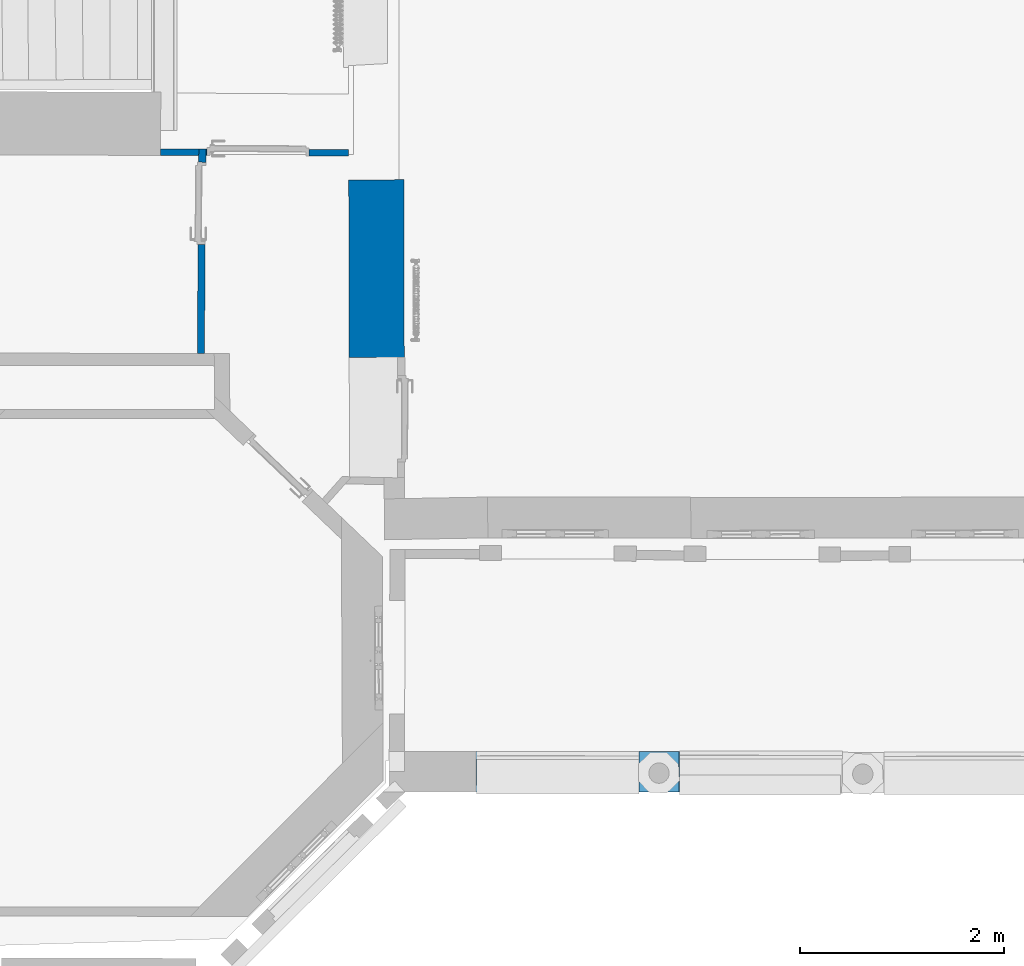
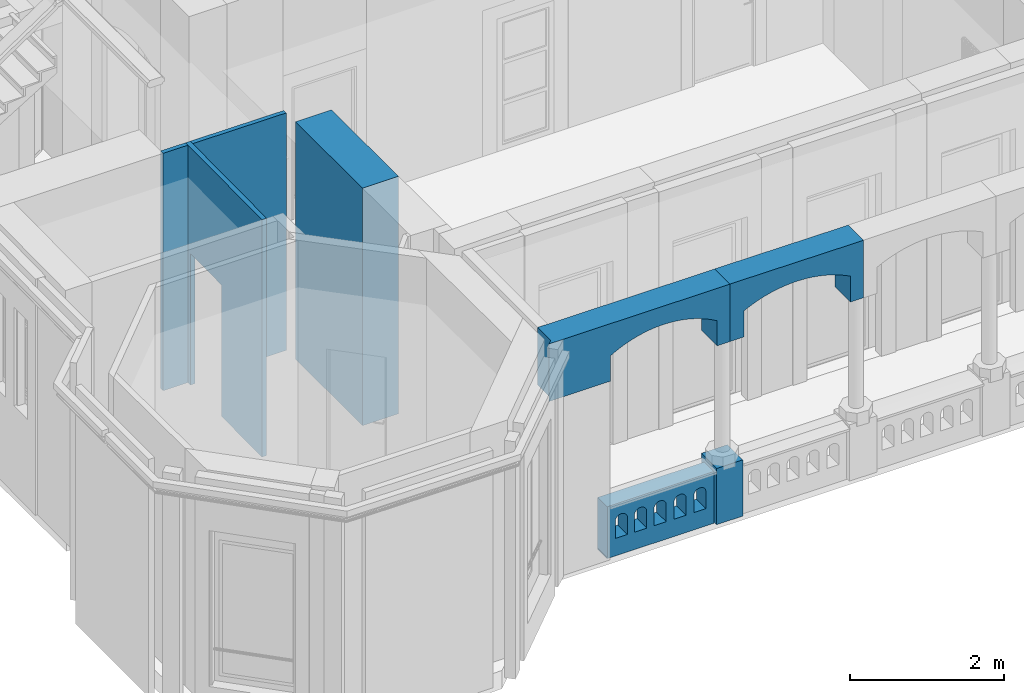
# One storey, part 4 of 66: 8 walls, 9 openings.
"""IFC2X3 building model written with IfcOpenShell, lengths in centimetres."""

from ifc_helpers import new_model, entity, si_unit, converted_unit, point, direction, frame, frame_2d, origin, origin_with_axes, origin_2d_with_axis, place, context, subcontext, project, spatial, polyline, circle_curve, trimmed, segment, composite_curve, rectangle, outline, extrude, clip, bounded_halfspace, shape, material, layer, layer_set, layer_usage, type_object, element, save


model = new_model("IFC2X3")

# Units and contexts
model_context = context("Model", 3, precision=0.0001, world=origin(), true_north=direction((0.225632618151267, 0.974212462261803, 0.0)))
body_context = subcontext(model_context, "Body", "Model", "MODEL_VIEW")
footprint_context = subcontext(model_context, "FootPrint", "Model", "MODEL_VIEW")
profile_context = subcontext(model_context, "Profile", "Model", "MODEL_VIEW")
ifc_project = project(units=[si_unit("LENGTHUNIT", "METRE", prefix="CENTI"), si_unit("AREAUNIT", "SQUARE_METRE", prefix="CENTI"), si_unit("VOLUMEUNIT", "CUBIC_METRE", prefix="CENTI"), converted_unit("PLANEANGLEUNIT", "DEGREE", entity("IfcRatioMeasure", 0.0174532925), si_unit("PLANEANGLEUNIT", "RADIAN"), dimensions=[0, 0, 0, 0, 0, 0, 0])], contexts=[model_context])

# Site, building, storey
site_placement = place(None, origin_with_axes())
site = spatial("IfcSite", under=ifc_project, at=site_placement, Name="Default Site", CompositionType="ELEMENT")
building_placement = place(site_placement, origin_with_axes())
building = spatial("IfcBuilding", under=site, at=building_placement, Name="Default Building", CompositionType="ELEMENT")
storey_placement = place(building_placement, frame((0.0, 0.0, 477.795358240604), z_axis=(0.0, 0.0, 1.0), x_axis=(1.0, 0.0, 0.0)))
storey = spatial("IfcBuildingStorey", under=building, at=storey_placement, Name="Niveau 1", CompositionType="ELEMENT", Elevation=477.795358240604)

# Wall
ifc_material = material(Name="<aucun>")
ifc_layer_1 = layer(ifc_material, 6.5)
ifc_layer_set_1 = layer_set([ifc_layer_1], Name="default")
ifc_layer_usage_1 = layer_usage(ifc_layer_set_1, "AXIS2", "POSITIVE", -3.25)
wall_type_1 = type_object("IfcWallType", Name="default 65", PredefinedType="NOTDEFINED", material=ifc_layer_set_1)
wall_1_placement = place(storey_placement, frame((-858.081555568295, -343.999470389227, 0.0128503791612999), z_axis=(0.0, 0.0, 1.0), x_axis=(-0.999992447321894, 0.00388655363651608, 0.0)))
element("IfcWallStandardCase", 1, at=wall_1_placement, inside=storey, type_object=wall_type_1, material=ifc_layer_usage_1, Name="Enveloppe 132255", context=body_context, shape_type="SweptSolid", body=[
    extrude(outline(polyline([(40.9161328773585, 3.24999999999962), (3.51114091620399, 3.24999999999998), (3.48890006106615, -3.25000000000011), (40.9161328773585, -3.25000000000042), (40.9161328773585, 3.24999999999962)])), frame((0.0, 0.0, -1.77635683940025e-13), z_axis=(0.0, 0.0, 1.0), x_axis=(1.0, 0.0, 0.0)), (0.0, 0.0, 1.0), 376.102165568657),
])

# Wall, opening
ifc_layer_usage_2 = layer_usage(ifc_layer_set_1, "AXIS2", "POSITIVE", -3.25)
wall_2_placement = place(storey_placement, frame((-714.725486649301, -344.556635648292, 0.0128503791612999), z_axis=(0.0, 0.0, 1.0), x_axis=(-0.999992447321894, 0.00388655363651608, 0.0)))
wall_2 = element("IfcWallStandardCase", 2, at=wall_2_placement, inside=storey, type_object=wall_type_1, material=ifc_layer_usage_2, Name="Enveloppe 132594", context=body_context, shape_type="SweptSolid", body=[
    extrude(outline(polyline([(139.868251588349, 3.24999999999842), (-0.0458888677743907, 3.25000000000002), (-0.0032777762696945, -3.24999999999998), (139.846010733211, -3.25000000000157), (139.868251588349, 3.24999999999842)])), origin_with_axes(), (0.0, 0.0, 1.0), 376.102165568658),
])
opening_1_placement = place(wall_2_placement, frame((38.9235844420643, -3.97903932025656e-13, -8.88178419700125e-16), z_axis=(0.0, 0.0, 1.0), x_axis=(-1.0, 1.16122389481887e-14, 0.0)))
cartesian_point_1 = entity("IfcCartesianPoint", [0.0, -4.44089209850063e-14, 208.5])
cartesian_point_2 = entity("IfcCartesianPoint", [-99.75981170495, -3.25000000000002])
element("IfcOpeningElement", 3, at=opening_1_placement, cuts=wall_2, Name="4294966411_11", ObjectType="Opening", shapes=[
    shape(body_context, "Body", "SweptSolid", [extrude(outline(polyline([(0.0, 208.5), (0.0, 0.0), (99.75981170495, 0.0), (99.75981170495, 208.5), (0.0, 208.5)])), frame((0.0, -13.25, 0.0), z_axis=(0.0, 1.0, 0.0), x_axis=(-1.0, 0.0, 0.0)), (0.0, 0.0, 1.0), 26.5)]),
    shape(profile_context, "Profile", "GeometricCurveSet", [entity("IfcGeometricCurveSet", [entity("IfcPolyline", [cartesian_point_1, entity("IfcCartesianPoint", [0.0, -4.44089209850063e-14, 0.0]), entity("IfcCartesianPoint", [-99.75981170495, -4.44089209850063e-14, 0.0]), entity("IfcCartesianPoint", [-99.75981170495, -4.44089209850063e-14, 208.5]), cartesian_point_1])])]),
    shape(footprint_context, "FootPrint", "GeometricCurveSet", [entity("IfcGeometricCurveSet", [entity("IfcPolyline", [cartesian_point_2, entity("IfcCartesianPoint", [0.0, -3.25000000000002]), entity("IfcCartesianPoint", [-8.88178419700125e-14, 3.24999999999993]), entity("IfcCartesianPoint", [-99.7598117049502, 3.25000000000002]), cartesian_point_2])])]),
])

ifc_layer_2 = layer(ifc_material, 7.0)
ifc_layer_set_2 = layer_set([ifc_layer_2], Name="default")
ifc_layer_usage_3 = layer_usage(ifc_layer_set_2, "AXIS2", "POSITIVE", -3.5)
wall_type_2 = type_object("IfcWallType", Name="default 70", PredefinedType="NOTDEFINED", material=ifc_layer_set_2)
wall_3_placement = place(storey_placement, frame((-859.522385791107, -541.147962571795, 0.0128503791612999), z_axis=(0.0, 0.0, 1.0), x_axis=(0.00730815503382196, 0.999973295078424, 0.0)))
wall_3 = element("IfcWallStandardCase", 4, at=wall_3_placement, inside=storey, type_object=wall_type_2, material=ifc_layer_usage_3, Name="Enveloppe 132385", context=body_context, shape_type="SweptSolid", body=[
    extrude(outline(polyline([(-0.0386540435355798, 3.50000000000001), (-8.88178419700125e-14, -3.50000000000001), (200.415752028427, -3.49999999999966), (200.391800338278, 3.50000000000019), (-0.0386540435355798, 3.50000000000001)])), frame((0.0, 0.0, -1.77635683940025e-13), z_axis=(0.0, 0.0, 1.0), x_axis=(1.0, 0.0, 0.0)), (0.0, 0.0, 1.0), 376.102165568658),
])
opening_2_placement = place(wall_3_placement, frame((106.66395324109, 2.27373675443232e-13, 8.88178419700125e-14), z_axis=(0.0, 0.0, 1.0), x_axis=(1.0, 6.59194920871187e-16, 0.0)))
cartesian_point_3 = entity("IfcCartesianPoint", [0.0, -1.77635683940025e-13, 208.0])
cartesian_point_4 = entity("IfcCartesianPoint", [80.735124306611, 3.49999999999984])
element("IfcOpeningElement", 5, at=opening_2_placement, cuts=wall_3, Name="4294966413_11", ObjectType="Opening", shapes=[
    shape(body_context, "Body", "SweptSolid", [extrude(outline(polyline([(0.0, 208.0), (0.0, -8.88178419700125e-14), (80.735124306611, -8.88178419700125e-14), (80.735124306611, 208.0), (0.0, 208.0)])), frame((0.0, 13.5, 0.0), z_axis=(0.0, -1.0, 0.0), x_axis=(1.0, 0.0, 0.0)), (0.0, 0.0, 1.0), 27.0)]),
    shape(profile_context, "Profile", "GeometricCurveSet", [entity("IfcGeometricCurveSet", [entity("IfcPolyline", [cartesian_point_3, entity("IfcCartesianPoint", [0.0, -1.77635683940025e-13, -8.88178419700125e-14]), entity("IfcCartesianPoint", [80.735124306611, -1.77635683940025e-13, -8.88178419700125e-14]), entity("IfcCartesianPoint", [80.735124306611, -1.77635683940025e-13, 208.0]), cartesian_point_3])])]),
    shape(footprint_context, "FootPrint", "GeometricCurveSet", [entity("IfcGeometricCurveSet", [entity("IfcPolyline", [cartesian_point_4, entity("IfcCartesianPoint", [0.0, 3.49999999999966]), entity("IfcCartesianPoint", [0.0, -3.50000000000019]), entity("IfcCartesianPoint", [80.735124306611, -3.50000000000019]), cartesian_point_4])])]),
])

ifc_layer_3 = layer(ifc_material, 39.8)
ifc_layer_set_3 = layer_set([ifc_layer_3], Name="default")
ifc_layer_usage_4 = layer_usage(ifc_layer_set_3, "AXIS2", "POSITIVE", -19.9)
wall_type_3 = type_object("IfcWallType", Name="default 398", PredefinedType="NOTDEFINED", material=ifc_layer_set_3)
wall_4_placement = place(storey_placement, frame((-210.135791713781, -951.945776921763, 285.0), z_axis=(0.0, 0.0, 1.0), x_axis=(-0.999988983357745, 0.00469394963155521, 0.0)))
wall_4 = element("IfcWallStandardCase", 6, at=wall_4_placement, inside=storey, type_object=wall_type_3, material=ifc_layer_usage_4, Name="Enveloppe 449531", context=body_context, shape_type="SweptSolid", body=[
    extrude(rectangle(XDim=39.7999999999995, YDim=199.548913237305, at=origin_2d_with_axis()), frame((99.9137392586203, 1.77635683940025e-13, 2.66453525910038e-13), z_axis=(0.0, 0.0, 1.0), x_axis=(-4.25007251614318e-17, -1.0, 0.0)), (0.0, 0.0, 1.0), 91.1150159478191),
])
opening_3_placement = place(wall_4_placement, frame((19.6409265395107, 1.13686837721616e-13, -5.6843418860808e-14), z_axis=(0.0, 0.0, 1.0), x_axis=(-1.0, 3.77302356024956e-16, 0.0)))
cartesian_point_5 = entity("IfcCartesianPoint", [0.0, 1.77635683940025e-13, 41.2107423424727])
cartesian_point_6 = entity("IfcCartesianPoint", [-159.18370357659, 1.77635683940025e-13, 41.2107423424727])
cartesian_point_7 = entity("IfcCartesianPoint", [-159.18370357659, -19.8999999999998])
element("IfcOpeningElement", 7, at=opening_3_placement, cuts=wall_4, Name="Baie 449532", ObjectType="Opening", shapes=[
    shape(body_context, "Body", "SweptSolid", [extrude(outline(composite_curve([segment(polyline([(-4.44089209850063e-14, 41.2107423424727), (-4.44089209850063e-14, -8.88178419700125e-14), (159.18370357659, -8.88178419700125e-14), (159.18370357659, 41.2107423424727)]), True, "CONTINUOUS"), segment(trimmed(circle_curve(frame_2d((79.5918517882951, -111.07221367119), x_axis=(1.0, 0.0)), 171.828290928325), [point((159.18370357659, 41.2107423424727))], [point((-4.44089209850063e-14, 41.2107423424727))], True, "CARTESIAN"), True, "CONTINUOUS")], self_intersect=False)), frame((0.0, -29.9, 0.0), z_axis=(0.0, 1.0, 0.0), x_axis=(-1.0, 0.0, 0.0)), (0.0, 0.0, 1.0), 59.8)]),
    shape(profile_context, "Profile", "GeometricCurveSet", [entity("IfcGeometricCurveSet", [entity("IfcCompositeCurve", [entity("IfcCompositeCurveSegment", "CONTINUOUS", True, entity("IfcPolyline", [cartesian_point_5, entity("IfcCartesianPoint", [0.0, 1.77635683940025e-13, -8.88178419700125e-14]), entity("IfcCartesianPoint", [-159.18370357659, 1.77635683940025e-13, -8.88178419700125e-14]), cartesian_point_6])), entity("IfcCompositeCurveSegment", "CONTINUOUS", True, entity("IfcTrimmedCurve", entity("IfcCircle", entity("IfcAxis2Placement3D", entity("IfcCartesianPoint", [-79.5918517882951, 1.77635683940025e-13, -111.07221367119]), entity("IfcDirection", [0.0, 1.0, 0.0]), entity("IfcDirection", [1.0, 0.0, 0.0])), 171.828290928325), [cartesian_point_6], [cartesian_point_5], True, "CARTESIAN"))], False)])]),
    shape(footprint_context, "FootPrint", "GeometricCurveSet", [entity("IfcGeometricCurveSet", [entity("IfcPolyline", [cartesian_point_7, entity("IfcCartesianPoint", [4.44089209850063e-14, -19.8999999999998]), entity("IfcCartesianPoint", [0.0, 19.9]), entity("IfcCartesianPoint", [-159.18370357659, 19.9]), cartesian_point_7])])]),
])

ifc_layer_usage_5 = layer_usage(ifc_layer_set_3, "AXIS2", "POSITIVE", -19.9)
wall_5_placement = place(storey_placement, frame((-409.918051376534, -951.202830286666, 285.0), z_axis=(0.0, 0.0, 1.0), x_axis=(-0.999999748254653, 0.000709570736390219, 0.0)))
wall_5 = element("IfcWallStandardCase", 8, at=wall_5_placement, inside=storey, type_object=wall_type_3, material=ifc_layer_usage_5, Name="Enveloppe 425816", context=body_context, shape_type="SweptSolid", body=[
    extrude(outline(polyline([(271.227288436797, 19.9000000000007), (-0.00513197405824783, 19.8999996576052), (-0.00499385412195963, 19.7053468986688), (-0.0168364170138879, 19.7053384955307), (-0.175414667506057, -20.0947593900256), (-0.0754157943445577, -20.0946884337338), (-0.0755539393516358, -19.9000003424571), (264.998680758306, -19.8999999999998), (265.084309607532, 14.1418492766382), (271.227288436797, 19.9000000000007)])), frame((0.0, 0.0, 2.66453525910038e-13), z_axis=(0.0, 0.0, 1.0), x_axis=(1.0, 0.0, 0.0)), (0.0, 0.0, 1.0), 91.1150159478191),
])
opening_4_placement = place(wall_5_placement, frame((19.3097220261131, 0.0, -5.304812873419e-06), z_axis=(0.0, 0.0, 1.0), x_axis=(-1.0, -6.34800371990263e-16, 0.0)))
cartesian_point_8 = entity("IfcCartesianPoint", [0.0, 0.0, 39.9087944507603])
cartesian_point_9 = entity("IfcCartesianPoint", [-159.820058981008, 1.77635683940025e-13, 39.9087944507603])
cartesian_point_10 = entity("IfcCartesianPoint", [-159.820058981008, -19.9])
element("IfcOpeningElement", 9, at=opening_4_placement, cuts=wall_5, Name="Baie 442165", ObjectType="Opening", shapes=[
    shape(body_context, "Body", "SweptSolid", [extrude(outline(composite_curve([segment(polyline([(0.0, 39.9087944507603), (0.0, 0.0), (159.820058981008, 0.0), (159.820058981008, 39.9087944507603)]), True, "CONTINUOUS"), segment(trimmed(circle_curve(frame_2d((79.9100294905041, -94.248237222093), x_axis=(1.0, 0.0)), 156.152880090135), [point((159.820058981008, 39.9087944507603))], [point((0.0, 39.9087944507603))], True, "CARTESIAN"), True, "CONTINUOUS")], self_intersect=False)), frame((0.0, -29.9, 0.0), z_axis=(0.0, 1.0, 0.0), x_axis=(-1.0, 0.0, 0.0)), (0.0, 0.0, 1.0), 59.8)]),
    shape(profile_context, "Profile", "GeometricCurveSet", [entity("IfcGeometricCurveSet", [entity("IfcCompositeCurve", [entity("IfcCompositeCurveSegment", "CONTINUOUS", True, entity("IfcPolyline", [cartesian_point_8, entity("IfcCartesianPoint", [0.0, 0.0, 0.0]), entity("IfcCartesianPoint", [-159.820058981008, 1.77635683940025e-13, 0.0]), cartesian_point_9])), entity("IfcCompositeCurveSegment", "CONTINUOUS", True, entity("IfcTrimmedCurve", entity("IfcCircle", entity("IfcAxis2Placement3D", entity("IfcCartesianPoint", [-79.9100294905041, -1.77635683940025e-13, -94.248237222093]), entity("IfcDirection", [1.11147302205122e-15, 1.0, 1.21138098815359e-14]), entity("IfcDirection", [1.0, -1.11147302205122e-15, 0.0])), 156.152880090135), [cartesian_point_9], [cartesian_point_8], True, "CARTESIAN"))], False)])]),
    shape(footprint_context, "FootPrint", "GeometricCurveSet", [entity("IfcGeometricCurveSet", [entity("IfcPolyline", [cartesian_point_10, entity("IfcCartesianPoint", [0.0, -19.9]), entity("IfcCartesianPoint", [0.0, 19.9000000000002]), entity("IfcCartesianPoint", [-159.820058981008, 19.9]), cartesian_point_10])])]),
])

# Wall
ifc_layer_usage_6 = layer_usage(ifc_layer_set_3, "AXIS2", "POSITIVE", -19.9)
wall_6_placement = place(storey_placement, frame((-390.701705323, -951.216465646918, 1.99999999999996), z_axis=(0.0, 0.0, 1.0), x_axis=(-0.999999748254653, 0.000709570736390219, 0.0)))
element("IfcWallStandardCase", 10, at=wall_6_placement, inside=storey, type_object=wall_type_3, material=ifc_layer_usage_6, Name="Enveloppe 427750", context=body_context, shape_type="Clipping", body=[
    clip(clip(extrude(outline(polyline([(39.2906264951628, 12.9009918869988), (39.2082945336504, 12.9009334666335), (39.2082945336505, 19.9), (0.0, 19.9), (0.0, 12.8731124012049), (-0.0999999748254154, 12.8730414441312), (-0.082331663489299, -12.0269522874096), (4.44089209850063e-14, -12.0268938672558), (4.44089209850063e-14, -19.9000000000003), (39.2082945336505, -19.9000000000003), (39.2082945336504, -11.9990728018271), (39.3082948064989, -11.9990018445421), (39.2906264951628, 12.9009918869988)])), frame((0.0, 0.0, -1.77635683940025e-13), z_axis=(0.0, 0.0, 1.0), x_axis=(1.0, 0.0, 0.0)), (0.0, 0.0, 1.0), 89.115015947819), bounded_halfspace(frame((39.308294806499, -11.9990018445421, 80.1150159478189), z_axis=(0.0, 0.0, -1.0), x_axis=(-0.000709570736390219, 0.999999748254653, 0.0)), True, frame((39.308294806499, -11.9990018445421, 80.1150159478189), z_axis=(0.0, 0.0, 1.0), x_axis=(1.0, 0.0, 0.0)), polyline([(-0.100000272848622, -7.09572850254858e-05), (-8.88178419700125e-14, -1.77635683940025e-13), (-0.0176683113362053, 24.8999937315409), (-0.100000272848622, 24.8999353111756), (-0.100000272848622, -7.09572850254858e-05)]))), bounded_halfspace(frame((-0.099999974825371, 12.8730414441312, 80.1150159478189), z_axis=(0.0, 0.0, -1.0), x_axis=(0.000709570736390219, -0.999999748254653, 0.0)), True, frame((-0.099999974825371, 12.8730414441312, 80.1150159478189), z_axis=(0.0, 0.0, 1.0), x_axis=(1.0, 0.0, 0.0)), polyline([(4.44089209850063e-14, 0.0), (0.0176683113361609, -24.8999937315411), (0.0999999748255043, -24.899935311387), (0.0999999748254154, 7.09570736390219e-05), (4.44089209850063e-14, 0.0)]))),
])

# Wall, openings
ifc_layer_4 = layer(ifc_material, 24.9)
ifc_layer_set_4 = layer_set([ifc_layer_4], Name="default")
ifc_layer_usage_7 = layer_usage(ifc_layer_set_4, "AXIS2", "POSITIVE", -12.45)
wall_type_4 = type_object("IfcWallType", Name="default 249", PredefinedType="NOTDEFINED", material=ifc_layer_set_4)
wall_7_placement = place(storey_placement, frame((-590.128527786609, -951.639574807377, 0.0128503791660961), z_axis=(0.0, 0.0, 1.0), x_axis=(1.0, 0.0, 0.0)))
wall_7 = element("IfcWallStandardCase", 11, at=wall_7_placement, inside=storey, type_object=wall_type_4, material=ifc_layer_usage_7, Name="Enveloppe 442722", context=body_context, shape_type="Clipping", body=[
    clip(clip(extrude(rectangle(XDim=24.8999999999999, YDim=160.209383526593, at=origin_2d_with_axis()), frame((80.1046917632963, 0.0, -1.77635683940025e-13), z_axis=(0.0, 0.0, 1.0), x_axis=(0.0, 1.0, 0.0)), (0.0, 0.0, 1.0), 82.1021655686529), bounded_halfspace(frame((160.127051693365, -12.4499999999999, 1.98714962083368), z_axis=(0.0, 0.0, -1.0), x_axis=(1.0, 0.0, 0.0)), True, frame((160.127051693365, -12.4499999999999, 1.98714962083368), z_axis=(0.0, 0.0, 1.0), x_axis=(1.0, 0.0, 0.0)), polyline([(0.0, 0.0), (0.0823318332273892, 0.0), (0.0823318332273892, 24.8999999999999), (0.0, 24.8999999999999), (0.0, 0.0)]))), bounded_halfspace(frame((0.430218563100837, -12.4499999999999, 1.98714962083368), z_axis=(0.0, 0.0, -1.0), x_axis=(0.000709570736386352, 0.999999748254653, 0.0)), True, frame((0.430218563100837, -12.4499999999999, 1.98714962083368), z_axis=(0.0, 0.0, 1.0), x_axis=(1.0, 0.0, 0.0)), polyline([(-0.430218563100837, 0.0), (0.0, 0.0), (0.0176683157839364, 24.8999999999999), (-0.430218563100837, 24.8999999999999), (-0.430218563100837, 0.0)]))),
])
opening_5_placement = place(wall_7_placement, frame((130.114399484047, 0.0, 27.3778522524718), z_axis=(0.0, 0.0, 1.0), x_axis=(-1.0, 0.0, 0.0)))
cartesian_point_11 = entity("IfcCartesianPoint", [0.0, 0.0, 27.09648889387])
cartesian_point_12 = entity("IfcCartesianPoint", [-18.1669635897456, 0.0, 27.09648889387])
cartesian_point_13 = entity("IfcCartesianPoint", [-18.1669635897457, -12.4499999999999])
element("IfcOpeningElement", 12, at=opening_5_placement, cuts=wall_7, Name="Baie 448691", ObjectType="Opening", shapes=[
    shape(body_context, "Body", "SweptSolid", [extrude(outline(composite_curve([segment(polyline([(0.0, 27.09648889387), (0.0, 8.88178419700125e-14), (18.1669635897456, 8.88178419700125e-14), (18.1669635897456, 27.09648889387)]), True, "CONTINUOUS"), segment(trimmed(circle_curve(frame_2d((9.08348179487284, 27.09648889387), x_axis=(1.0, 0.0)), 9.08348179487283), [point((18.1669635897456, 27.09648889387))], [point((0.0, 27.09648889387))], True, "CARTESIAN"), True, "CONTINUOUS")], self_intersect=False)), frame((0.0, -22.45, 0.0), z_axis=(0.0, 1.0, 0.0), x_axis=(-1.0, 0.0, 0.0)), (0.0, 0.0, 1.0), 44.9)]),
    shape(profile_context, "Profile", "GeometricCurveSet", [entity("IfcGeometricCurveSet", [entity("IfcCompositeCurve", [entity("IfcCompositeCurveSegment", "CONTINUOUS", True, entity("IfcPolyline", [cartesian_point_11, entity("IfcCartesianPoint", [0.0, 0.0, 8.88178419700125e-14]), entity("IfcCartesianPoint", [-18.1669635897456, 0.0, 8.88178419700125e-14]), cartesian_point_12])), entity("IfcCompositeCurveSegment", "CONTINUOUS", True, entity("IfcTrimmedCurve", entity("IfcCircle", entity("IfcAxis2Placement3D", entity("IfcCartesianPoint", [-9.08348179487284, 0.0, 27.09648889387]), entity("IfcDirection", [0.0, 1.0, 0.0]), entity("IfcDirection", [1.0, 0.0, 0.0])), 9.08348179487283), [cartesian_point_12], [cartesian_point_11], True, "CARTESIAN"))], False)])]),
    shape(footprint_context, "FootPrint", "GeometricCurveSet", [entity("IfcGeometricCurveSet", [entity("IfcPolyline", [cartesian_point_13, entity("IfcCartesianPoint", [0.0, -12.4499999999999]), entity("IfcCartesianPoint", [0.0, 12.4499999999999]), entity("IfcCartesianPoint", [-18.1669635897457, 12.4499999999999]), cartesian_point_13])])]),
])
opening_6_placement = place(wall_7_placement, frame((100.525714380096, 0.0, 27.3778886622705), z_axis=(0.0, 0.0, 1.0), x_axis=(-1.0, 0.0, 0.0)))
cartesian_point_14 = entity("IfcCartesianPoint", [0.0, 0.0, 27.09648889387])
cartesian_point_15 = entity("IfcCartesianPoint", [-18.1669635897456, 0.0, 27.09648889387])
cartesian_point_16 = entity("IfcCartesianPoint", [-18.1669635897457, -12.4499999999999])
element("IfcOpeningElement", 13, at=opening_6_placement, cuts=wall_7, Name="Baie 448690", ObjectType="Opening", shapes=[
    shape(body_context, "Body", "SweptSolid", [extrude(outline(composite_curve([segment(polyline([(0.0, 27.09648889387), (0.0, 8.88178419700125e-14), (18.1669635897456, 8.88178419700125e-14), (18.1669635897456, 27.09648889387)]), True, "CONTINUOUS"), segment(trimmed(circle_curve(frame_2d((9.08348179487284, 27.09648889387), x_axis=(1.0, 0.0)), 9.08348179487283), [point((18.1669635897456, 27.09648889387))], [point((0.0, 27.09648889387))], True, "CARTESIAN"), True, "CONTINUOUS")], self_intersect=False)), frame((0.0, -22.45, 0.0), z_axis=(0.0, 1.0, 0.0), x_axis=(-1.0, 0.0, 0.0)), (0.0, 0.0, 1.0), 44.9)]),
    shape(profile_context, "Profile", "GeometricCurveSet", [entity("IfcGeometricCurveSet", [entity("IfcCompositeCurve", [entity("IfcCompositeCurveSegment", "CONTINUOUS", True, entity("IfcPolyline", [cartesian_point_14, entity("IfcCartesianPoint", [0.0, 0.0, 8.88178419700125e-14]), entity("IfcCartesianPoint", [-18.1669635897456, 0.0, 8.88178419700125e-14]), cartesian_point_15])), entity("IfcCompositeCurveSegment", "CONTINUOUS", True, entity("IfcTrimmedCurve", entity("IfcCircle", entity("IfcAxis2Placement3D", entity("IfcCartesianPoint", [-9.08348179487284, 0.0, 27.09648889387]), entity("IfcDirection", [0.0, 1.0, 0.0]), entity("IfcDirection", [1.0, 0.0, 0.0])), 9.08348179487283), [cartesian_point_15], [cartesian_point_14], True, "CARTESIAN"))], False)])]),
    shape(footprint_context, "FootPrint", "GeometricCurveSet", [entity("IfcGeometricCurveSet", [entity("IfcPolyline", [cartesian_point_16, entity("IfcCartesianPoint", [0.0, -12.4499999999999]), entity("IfcCartesianPoint", [0.0, 12.4499999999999]), entity("IfcCartesianPoint", [-18.1669635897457, 12.4499999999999]), cartesian_point_16])])]),
])
opening_7_placement = place(wall_7_placement, frame((12.4256332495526, 0.0, 27.6595103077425), z_axis=(0.0, 0.0, 1.0), x_axis=(-1.0, 0.0, 0.0)))
cartesian_point_17 = entity("IfcCartesianPoint", [0.0, 0.0, 27.09648889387])
cartesian_point_18 = entity("IfcCartesianPoint", [-18.1669635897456, 0.0, 27.09648889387])
cartesian_point_19 = entity("IfcCartesianPoint", [-18.1669635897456, -12.4499999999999])
element("IfcOpeningElement", 14, at=opening_7_placement, cuts=wall_7, Name="Baie 448686", ObjectType="Opening", shapes=[
    shape(body_context, "Body", "SweptSolid", [extrude(outline(composite_curve([segment(polyline([(0.0, 27.09648889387), (0.0, 8.88178419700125e-14), (18.1669635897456, 8.88178419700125e-14), (18.1669635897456, 27.09648889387)]), True, "CONTINUOUS"), segment(trimmed(circle_curve(frame_2d((9.08348179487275, 27.0964888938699), x_axis=(1.0, 0.0)), 9.08348179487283), [point((18.1669635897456, 27.09648889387))], [point((0.0, 27.09648889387))], True, "CARTESIAN"), True, "CONTINUOUS")], self_intersect=False)), frame((0.0, -22.45, 0.0), z_axis=(0.0, 1.0, 0.0), x_axis=(-1.0, 0.0, 0.0)), (0.0, 0.0, 1.0), 44.9)]),
    shape(profile_context, "Profile", "GeometricCurveSet", [entity("IfcGeometricCurveSet", [entity("IfcCompositeCurve", [entity("IfcCompositeCurveSegment", "CONTINUOUS", True, entity("IfcPolyline", [cartesian_point_17, entity("IfcCartesianPoint", [0.0, 0.0, 8.88178419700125e-14]), entity("IfcCartesianPoint", [-18.1669635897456, 0.0, 8.88178419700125e-14]), cartesian_point_18])), entity("IfcCompositeCurveSegment", "CONTINUOUS", True, entity("IfcTrimmedCurve", entity("IfcCircle", entity("IfcAxis2Placement3D", entity("IfcCartesianPoint", [-9.08348179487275, 0.0, 27.0964888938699]), entity("IfcDirection", [0.0, 1.0, 0.0]), entity("IfcDirection", [1.0, 0.0, 0.0])), 9.08348179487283), [cartesian_point_18], [cartesian_point_17], True, "CARTESIAN"))], False)])]),
    shape(footprint_context, "FootPrint", "GeometricCurveSet", [entity("IfcGeometricCurveSet", [entity("IfcPolyline", [cartesian_point_19, entity("IfcCartesianPoint", [0.0, -12.4499999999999]), entity("IfcCartesianPoint", [0.0, 12.4499999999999]), entity("IfcCartesianPoint", [-18.1669635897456, 12.4499999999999]), cartesian_point_19])])]),
])
opening_8_placement = place(wall_7_placement, frame((70.5599167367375, 0.0, 27.6595103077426), z_axis=(0.0, 0.0, 1.0), x_axis=(-1.0, 0.0, 0.0)))
cartesian_point_20 = entity("IfcCartesianPoint", [0.0, 0.0, 27.09648889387])
cartesian_point_21 = entity("IfcCartesianPoint", [-18.1669635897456, 0.0, 27.09648889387])
cartesian_point_22 = entity("IfcCartesianPoint", [-18.1669635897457, -12.4499999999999])
element("IfcOpeningElement", 15, at=opening_8_placement, cuts=wall_7, Name="Baie 448689", ObjectType="Opening", shapes=[
    shape(body_context, "Body", "SweptSolid", [extrude(outline(composite_curve([segment(polyline([(0.0, 27.09648889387), (0.0, 8.88178419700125e-14), (18.1669635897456, 8.88178419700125e-14), (18.1669635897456, 27.09648889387)]), True, "CONTINUOUS"), segment(trimmed(circle_curve(frame_2d((9.08348179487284, 27.09648889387), x_axis=(1.0, 0.0)), 9.08348179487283), [point((18.1669635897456, 27.09648889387))], [point((0.0, 27.09648889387))], True, "CARTESIAN"), True, "CONTINUOUS")], self_intersect=False)), frame((0.0, -22.45, 0.0), z_axis=(0.0, 1.0, 0.0), x_axis=(-1.0, 0.0, 0.0)), (0.0, 0.0, 1.0), 44.9)]),
    shape(profile_context, "Profile", "GeometricCurveSet", [entity("IfcGeometricCurveSet", [entity("IfcCompositeCurve", [entity("IfcCompositeCurveSegment", "CONTINUOUS", True, entity("IfcPolyline", [cartesian_point_20, entity("IfcCartesianPoint", [0.0, 0.0, 8.88178419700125e-14]), entity("IfcCartesianPoint", [-18.1669635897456, 0.0, 8.88178419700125e-14]), cartesian_point_21])), entity("IfcCompositeCurveSegment", "CONTINUOUS", True, entity("IfcTrimmedCurve", entity("IfcCircle", entity("IfcAxis2Placement3D", entity("IfcCartesianPoint", [-9.08348179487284, 0.0, 27.09648889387]), entity("IfcDirection", [0.0, 1.0, 0.0]), entity("IfcDirection", [1.0, 0.0, 0.0])), 9.08348179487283), [cartesian_point_21], [cartesian_point_20], True, "CARTESIAN"))], False)])]),
    shape(footprint_context, "FootPrint", "GeometricCurveSet", [entity("IfcGeometricCurveSet", [entity("IfcPolyline", [cartesian_point_22, entity("IfcCartesianPoint", [0.0, -12.4499999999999]), entity("IfcCartesianPoint", [0.0, 12.4499999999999]), entity("IfcCartesianPoint", [-18.1669635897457, 12.4499999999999]), cartesian_point_22])])]),
])
opening_9_placement = place(wall_7_placement, frame((41.3696091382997, 0.0, 27.6595103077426), z_axis=(0.0, 0.0, 1.0), x_axis=(-1.0, 0.0, 0.0)))
cartesian_point_23 = entity("IfcCartesianPoint", [0.0, 0.0, 27.09648889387])
cartesian_point_24 = entity("IfcCartesianPoint", [-18.1669635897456, 0.0, 27.09648889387])
cartesian_point_25 = entity("IfcCartesianPoint", [-18.1669635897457, -12.4499999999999])
element("IfcOpeningElement", 16, at=opening_9_placement, cuts=wall_7, Name="Baie 448688", ObjectType="Opening", shapes=[
    shape(body_context, "Body", "SweptSolid", [extrude(outline(composite_curve([segment(polyline([(0.0, 27.09648889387), (0.0, 8.88178419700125e-14), (18.1669635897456, 8.88178419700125e-14), (18.1669635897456, 27.09648889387)]), True, "CONTINUOUS"), segment(trimmed(circle_curve(frame_2d((9.08348179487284, 27.09648889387), x_axis=(1.0, 0.0)), 9.08348179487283), [point((18.1669635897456, 27.09648889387))], [point((0.0, 27.09648889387))], True, "CARTESIAN"), True, "CONTINUOUS")], self_intersect=False)), frame((0.0, -22.45, 0.0), z_axis=(0.0, 1.0, 0.0), x_axis=(-1.0, 0.0, 0.0)), (0.0, 0.0, 1.0), 44.9)]),
    shape(profile_context, "Profile", "GeometricCurveSet", [entity("IfcGeometricCurveSet", [entity("IfcCompositeCurve", [entity("IfcCompositeCurveSegment", "CONTINUOUS", True, entity("IfcPolyline", [cartesian_point_23, entity("IfcCartesianPoint", [0.0, 0.0, 8.88178419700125e-14]), entity("IfcCartesianPoint", [-18.1669635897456, 0.0, 8.88178419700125e-14]), cartesian_point_24])), entity("IfcCompositeCurveSegment", "CONTINUOUS", True, entity("IfcTrimmedCurve", entity("IfcCircle", entity("IfcAxis2Placement3D", entity("IfcCartesianPoint", [-9.08348179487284, 0.0, 27.09648889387]), entity("IfcDirection", [0.0, 1.0, 0.0]), entity("IfcDirection", [1.0, 0.0, 0.0])), 9.08348179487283), [cartesian_point_24], [cartesian_point_23], True, "CARTESIAN"))], False)])]),
    shape(footprint_context, "FootPrint", "GeometricCurveSet", [entity("IfcGeometricCurveSet", [entity("IfcPolyline", [cartesian_point_25, entity("IfcCartesianPoint", [0.0, -12.4499999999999]), entity("IfcCartesianPoint", [0.0, 12.4499999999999]), entity("IfcCartesianPoint", [-18.1669635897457, 12.4499999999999]), cartesian_point_25])])]),
])

# Wall
ifc_layer_5 = layer(ifc_material, 54.0)
ifc_layer_set_5 = layer_set([ifc_layer_5], Name="default")
ifc_layer_usage_8 = layer_usage(ifc_layer_set_5, "AXIS2", "POSITIVE", -27.0)
wall_type_5 = type_object("IfcWallType", Name="default 540", PredefinedType="NOTDEFINED", material=ifc_layer_set_5)
wall_8_placement = place(storey_placement, frame((-687.16587385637, -544.988813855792, 0.0128503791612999), z_axis=(0.0, 0.0, 1.0), x_axis=(-0.00266889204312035, 0.999996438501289, 0.0)))
element("IfcWallStandardCase", 17, at=wall_8_placement, inside=storey, type_object=wall_type_5, material=ifc_layer_usage_8, Name="Enveloppe 94148", context=body_context, shape_type="Clipping", body=[
    clip(clip(clip(extrude(outline(polyline([(174.040223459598, 27.0), (0.0, 27.0), (-0.00966771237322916, -22.6526949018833), (-0.0295187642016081, -27.0000000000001), (174.040223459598, -26.9999999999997), (174.040223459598, 27.0)])), frame((0.0, 0.0, -2.66453525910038e-13), z_axis=(0.0, 0.0, 1.0), x_axis=(1.0, 0.0, 0.0)), (0.0, 0.0, 1.0), 376.102165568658), bounded_halfspace(frame((0.0, 27.0, 233.487149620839), z_axis=(0.0, 0.0, -1.0), x_axis=(-1.98408997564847e-15, -1.0, 0.0)), True, frame((0.0, 27.0, 233.487149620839), z_axis=(0.0, 0.0, 1.0), x_axis=(1.0, 0.0, 0.0)), polyline([(-1.77635683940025e-13, -15.0000000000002), (0.13059447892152, -15.0000000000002), (0.130594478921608, -1.77635683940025e-13), (0.0, 0.0), (-1.77635683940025e-13, -15.0000000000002)]))), bounded_halfspace(frame((-0.00966771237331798, -22.6526949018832, 233.487149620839), z_axis=(0.0, 0.0, -1.0), x_axis=(-0.00456624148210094, -0.99998957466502, 0.0)), True, frame((-0.00966771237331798, -22.6526949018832, 233.487149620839), z_axis=(0.0, 0.0, 1.0), x_axis=(1.0, 0.0, 0.0)), polyline([(-0.019851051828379, -4.347305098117), (0.140262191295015, -4.34730509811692), (0.140262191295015, 0.00114972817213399), (0.0, 0.0), (-0.019851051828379, -4.347305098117)]))), bounded_halfspace(frame((0.130594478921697, -22.6515451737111, 233.487149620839), z_axis=(0.0, 0.0, -1.0), x_axis=(7.24247051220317e-17, 1.0, 0.0)), True, frame((0.130594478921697, -22.6515451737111, 233.487149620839), z_axis=(0.0, 0.0, 1.0), x_axis=(1.0, 0.0, 0.0)), polyline([(-0.140262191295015, -0.00114972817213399), (0.0, 0.0), (-1.77635683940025e-13, 34.6515451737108), (-0.130594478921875, 34.6515451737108), (-0.140262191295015, -0.00114972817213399)]))),
])

save(model, "model.ifc")
